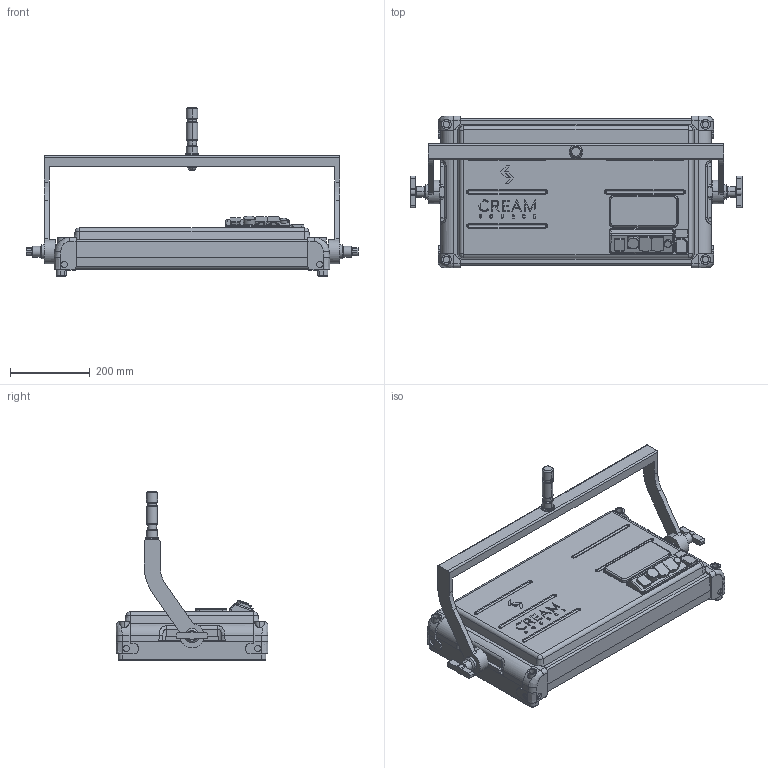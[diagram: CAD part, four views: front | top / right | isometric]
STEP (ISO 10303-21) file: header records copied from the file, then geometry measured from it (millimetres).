
FILE_DESCRIPTION((''),'2;1');
FILE_NAME('V8_SIMPLIFY_YOKE_TOWARD_BACK','2022-07-05T18:25:00',('Evan'),(''),'CREO PARAMETRIC BY PTC INC, 2019010','CREO PARAMETRIC BY PTC INC, 2019010','');
FILE_SCHEMA(('CONFIG_CONTROL_DESIGN'));
Length unit declared in the file: millimetre
Products named in the file (1): V8_SIMPLIFY_YOKE_TOWARD_BACK
Bounding box: 831 x 380 x 423 mm (x, y, z)
Volume: 25775626.6 mm3; surface area: 1012028.8 mm2
Topology: 1 solids, 1 shells, 896 faces, 2331 edges, 1473 vertices
Faces by surface type: plane 351, cylinder 296, torus 82, extrusion 80, cone 36, bspline 29, sphere 22
Entity records: 29734 total; most frequent: CARTESIAN_POINT 7863, ORIENTED_EDGE 4620, DIRECTION 4460, EDGE_CURVE 2310, AXIS2_PLACEMENT_3D 1575, VERTEX_POINT 1473, VECTOR 1310, LINE 1230
